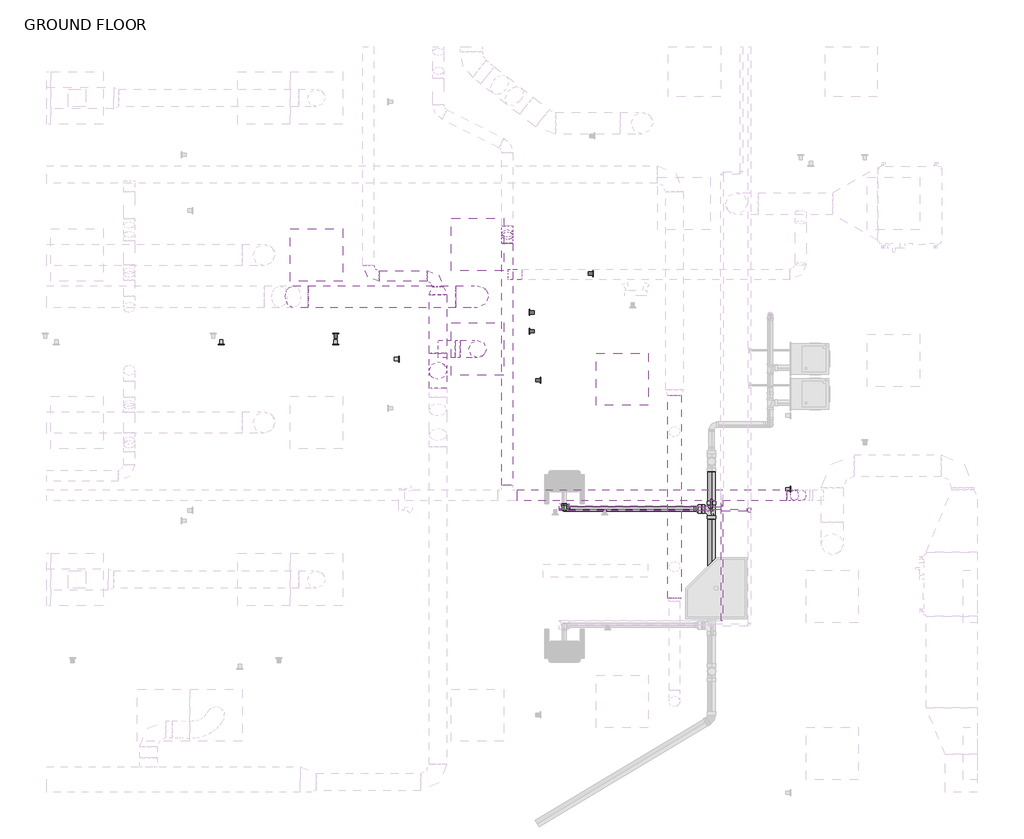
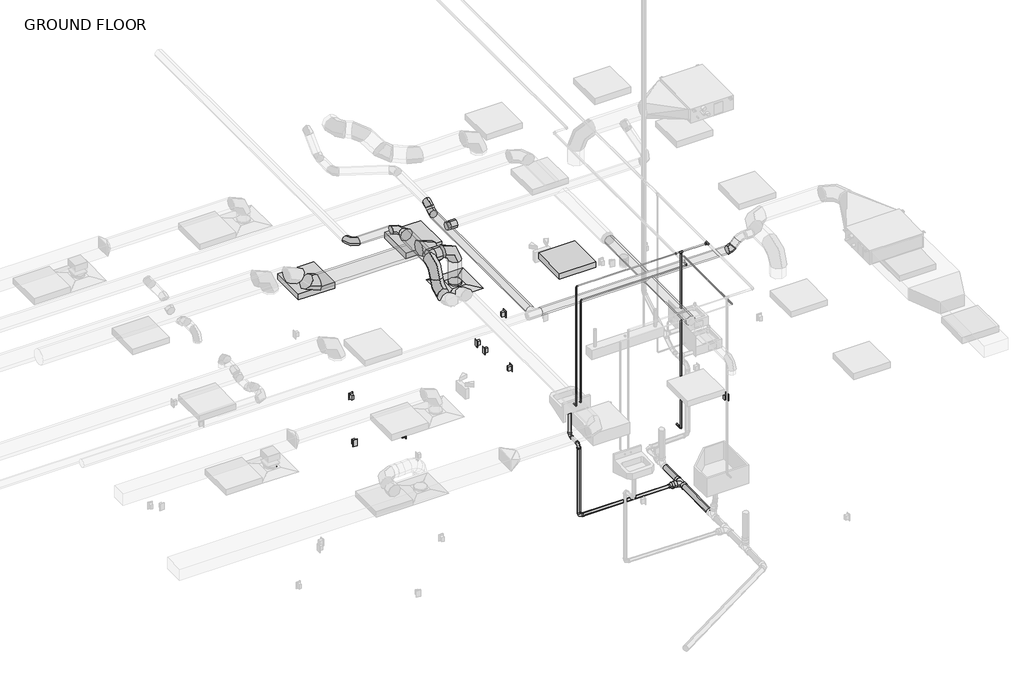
# One storey, part 8 of 22: 17 pipe segments, 15 pipe fittings, 13 duct fittings, 10 duct segments, 5 proxies, 3 light fixtures, 3 switching devices, 1 air terminal, 1 electric appliance.
"""IFC4 building model written with IfcOpenShell, lengths in millimetres."""

from ifc_helpers import new_model, si_unit, point, frame, frame_2d, origin, place, context, project, spatial, circle_curve, trimmed, segment, composite_curve, outline, extrude, transform, mapped, element, save
from components import air_terminal_e9020785, duplex_receptacle_countertop_10251bba, round_elbow_1_d_a253342a, round_elbow_1_d_6fec3262, round_elbow_1_d_c80420c1, round_elbow_1_d_ea3dccb8, round_elbow_1_d_d98422f0, round_elbow_1_d_d4250430, round_takeoff_standard_fe6830fc, round_takeoff_standard_aff246af, round_transition_angle_45_degree_d7d10bec, telephone_outlet_data_plain_18c24199, troffer_corner_insert_2x2_3lamp_e67c7f8f, bend_pvc_sch_40_dwv_standard_56513ac6, bend_pvc_sch_40_dwv_standard_efe5b847, elbow_generic_standard_738589b0, elbow_generic_standard_a088f956, reducer_pvc_sch_40_dwv_standard_bed7e4d3, tee_generic_standard_5078887e, tee_generic_standard_d345b28c, tee_sanitary_pvc_sch_40_dwv_standard_2808dae9, transition_generic_standard_44e35838, transition_generic_standard_1e832544

model = new_model("IFC4")

# Units and contexts
model_context = context("Model", 3, world=origin())
ifc_project = project(units=[si_unit("LENGTHUNIT", "METRE", prefix="MILLI")], contexts=[model_context])

# Site, building, storey
site = spatial("IfcSite", under=ifc_project)
building = spatial("IfcBuilding", under=site)
storey = spatial("IfcBuildingStorey", under=building, Name="GROUND FLOOR", Elevation=30480.0)

# Air terminal
placement = place(None, origin())
air_terminal_shape = air_terminal_e9020785(model_context)
element("IfcAirTerminal", 1, ObjectType="Supply Diffuser - Rectangular Face Round Neck - Hosted : 24\"x24\" Face 8\" Neck - Hosted", at=placement, inside=storey, context=model_context, shape_type="MappedRepresentation", body=[
    mapped(air_terminal_shape, transform((10211.7545393, -1542.0554995, 33223.2), x_axis=(0.0, -1.0, 0.0), y_axis=(-1.0, 0.0, 0.0), z_axis=(0.0, 0.0, -1.0))),
])

# Proxies
duplex_receptacle_countertop_shape = duplex_receptacle_countertop_10251bba(model_context)
element("IfcBuildingElementProxy", 2, Name="Duplex Receptacle : Countertop", ObjectType="Duplex Receptacle : Countertop", at=placement, inside=storey, context=model_context, shape_type="MappedRepresentation", body=[
    mapped(duplex_receptacle_countertop_shape, transform((8561.7474571, -1361.0804995, 31699.2), x_axis=(1.0, 0.0, 0.0), y_axis=(0.0, 0.0, -1.0), z_axis=(0.0, 1.0, 0.0))),
])
element("IfcBuildingElementProxy", 3, Name="Duplex Receptacle : Countertop", ObjectType="Duplex Receptacle : Countertop", at=placement, inside=storey, context=model_context, shape_type="MappedRepresentation", body=[
    mapped(duplex_receptacle_countertop_shape, transform((8558.6360575, -1484.9054995, 30937.2), x_axis=(-1.0, 0.0, 0.0), y_axis=(0.0, 0.0, -1.0), z_axis=(0.0, -1.0, 0.0))),
])
element("IfcBuildingElementProxy", 4, Name="Duplex Receptacle : GFCI", ObjectType="Duplex Receptacle : GFCI", at=placement, inside=storey, context=model_context, shape_type="MappedRepresentation", body=[
    mapped(duplex_receptacle_countertop_shape, transform((10945.1795393, -1904.4991631, 31699.2), x_axis=(0.0, 1.0, 0.0), y_axis=(0.0, 0.0, 1.0), z_axis=(1.0, 0.0, 0.0))),
])
element("IfcBuildingElementProxy", 5, Name="Duplex Receptacle : Standard", ObjectType="Duplex Receptacle : Standard", at=placement, inside=storey, context=model_context, shape_type="MappedRepresentation", body=[
    mapped(duplex_receptacle_countertop_shape, transform((9297.3545393, -1658.5626349, 30937.2), x_axis=(0.0, 1.0, 0.0), y_axis=(0.0, 0.0, 1.0), z_axis=(1.0, 0.0, 0.0))),
])
element("IfcBuildingElementProxy", 6, Name="Duplex Receptacle : Standard", ObjectType="Duplex Receptacle : Standard", at=placement, inside=storey, context=model_context, shape_type="MappedRepresentation", body=[
    mapped(duplex_receptacle_countertop_shape, transform((13856.6545393, -3176.2027773, 30937.2), x_axis=(0.0, 1.0, 0.0), y_axis=(0.0, 0.0, 1.0), z_axis=(1.0, 0.0, 0.0))),
])

# Duct fittings
round_elbow_1_d_shape = round_elbow_1_d_a253342a(model_context)
element("IfcDuctFitting", 7, ObjectType="Round Elbow : 1 D", at=placement, inside=storey, context=model_context, shape_type="MappedRepresentation", body=[
    mapped(round_elbow_1_d_shape, transform((10211.7545393, -1542.0554995, 33877.25), x_axis=(1.0, 0.0, 0.0), y_axis=(0.0, 0.0, -1.0), z_axis=(0.0, 1.0, 0.0))),
])
element("IfcDuctFitting", 8, ObjectType="Round Elbow : 1 D", at=placement, inside=storey, context=model_context, shape_type="MappedRepresentation", body=[
    mapped(round_elbow_1_d_shape, transform((9751.3795393, -1793.3165405, 33877.25), x_axis=(0.0, -1.0, 0.0), y_axis=(0.0, 0.0, -1.0), z_axis=(1.0, 0.0, 0.0))),
])
element("IfcDuctFitting", 9, ObjectType="Round Elbow : 1 D", at=placement, inside=storey, context=model_context, shape_type="MappedRepresentation", body=[
    mapped(round_elbow_1_d_shape, transform((9751.3795393, -1793.3165405, 33470.85), x_axis=(0.0, 0.0, -1.0), y_axis=(0.0, -1.0, 0.0), z_axis=(-1.0, 0.0, 0.0))),
])
round_elbow_1_d_2_shape = round_elbow_1_d_6fec3262(model_context)
element("IfcDuctFitting", 10, ObjectType="Round Elbow : 1 D", at=placement, inside=storey, context=model_context, shape_type="MappedRepresentation", body=[
    mapped(round_elbow_1_d_2_shape, transform((10211.7545393, -932.4554995, 33578.8), x_axis=(0.0, 0.0, 1.0), y_axis=(-1.0, 0.0, 0.0), z_axis=(0.0, -1.0, 0.0))),
])
round_elbow_1_d_3_shape = round_elbow_1_d_c80420c1(model_context)
element("IfcDuctFitting", 11, ObjectType="Round Elbow : 1 D", at=placement, inside=storey, context=model_context, shape_type="MappedRepresentation", body=[
    mapped(round_elbow_1_d_3_shape, transform((9751.3795393, -691.6850038, 33877.25), x_axis=(0.0, 1.0, 0.0), y_axis=(-1.0, 0.0, 0.0), z_axis=(0.0, 0.0, 1.0))),
])
element("IfcDuctFitting", 12, ObjectType="Round Elbow : 1 D", at=placement, inside=storey, context=model_context, shape_type="MappedRepresentation", body=[
    mapped(round_elbow_1_d_3_shape, transform((8938.5795393, -691.6850038, 33877.25), x_axis=(0.0, -1.0, 0.0), y_axis=(1.0, 0.0, 0.0), z_axis=(0.0, 0.0, 1.0))),
])
round_elbow_1_d_4_shape = round_elbow_1_d_ea3dccb8(model_context)
element("IfcDuctFitting", 13, ObjectType="Round Elbow : 1 D", at=placement, inside=storey, context=model_context, shape_type="MappedRepresentation", body=[
    mapped(round_elbow_1_d_4_shape, transform((8136.5019534, -932.4554995, 33578.8), x_axis=(0.7071067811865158, 0.0, -0.7071067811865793), y_axis=(0.7071067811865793, 0.0, 0.7071067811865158), z_axis=(0.0, -1.0, 0.0))),
])
round_elbow_1_d_5_shape = round_elbow_1_d_d98422f0(model_context)
element("IfcDuctFitting", 14, ObjectType="Round Elbow : 1 D", at=placement, inside=storey, context=model_context, shape_type="MappedRepresentation", body=[
    mapped(round_elbow_1_d_5_shape, transform((13868.7409865, -3245.6216457, 33602.9101563), x_axis=(-0.7071065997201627, 0.0, -0.707106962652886), y_axis=(-0.707106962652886, 0.0, 0.7071065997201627), z_axis=(0.0, 1.0, 0.0))),
])
round_elbow_1_d_6_shape = round_elbow_1_d_d4250430(model_context)
element("IfcDuctFitting", 15, ObjectType="Round Elbow : 1 D", at=placement, inside=storey, context=model_context, shape_type="MappedRepresentation", body=[
    mapped(round_elbow_1_d_6_shape, transform((10560.5577502, -156.9708741, 33705.8), x_axis=(0.0, -1.0, 0.0), y_axis=(0.0, 0.0, -1.0), z_axis=(1.0, 0.0, 0.0))),
])
element("IfcDuctFitting", 16, ObjectType="Round Elbow : 1 D", at=placement, inside=storey, context=model_context, shape_type="MappedRepresentation", body=[
    mapped(round_elbow_1_d_6_shape, transform((10560.5577502, -259.8606861, 33602.9101563), x_axis=(0.0, -0.7071066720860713, -0.7071068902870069), y_axis=(0.0, -0.7071068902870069, 0.7071066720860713), z_axis=(-1.0, 0.0, 0.0))),
])
round_takeoff_standard_shape = round_takeoff_standard_fe6830fc(model_context)
element("IfcDuctFitting", 17, ObjectType="Round Takeoff : Standard", at=placement, inside=storey, context=model_context, shape_type="MappedRepresentation", body=[
    mapped(round_takeoff_standard_shape, transform((10624.0577502, -673.4644888, 33602.9101562), x_axis=(1.0, 0.0, 0.0), y_axis=(0.0, 1.0, 0.0), z_axis=(0.0, 0.0, 1.0))),
])
round_takeoff_standard_2_shape = round_takeoff_standard_aff246af(model_context)
element("IfcDuctFitting", 18, ObjectType="Round Takeoff : Standard", at=placement, inside=storey, context=model_context, shape_type="MappedRepresentation", body=[
    mapped(round_takeoff_standard_2_shape, transform((9852.9795393, -1542.0554995, 33877.25), x_axis=(1.0, 0.0, 0.0), y_axis=(0.0, -1.0, 0.0), z_axis=(0.0, 0.0, -1.0))),
])
round_transition_angle_45_degree_shape = round_transition_angle_45_degree_d7d10bec(model_context)
element("IfcDuctFitting", 19, ObjectType="Round Transition - Angle : 45 Degree", at=placement, inside=storey, context=model_context, shape_type="MappedRepresentation", body=[
    mapped(round_transition_angle_45_degree_shape, transform((9751.3795393, -910.6665405, 33877.25), x_axis=(0.0, 1.0, 0.0), y_axis=(-1.0, 0.0, 0.0), z_axis=(0.0, 0.0, 1.0))),
])

# Duct segments
element("IfcDuctSegment", 20, ObjectType="Taps / Short Radius", at=placement, inside=storey, context=model_context, shape_type="SweptSolid", body=[
    extrude(outline(composite_curve([segment(trimmed(circle_curve(frame_2d((-691.6850038, 33877.25)), 63.5), [point((-628.1850038, 33877.25))], [point((-691.6850038, 33813.75))], False, "CARTESIAN"), True, "CONTINUOUS"), segment(trimmed(circle_curve(frame_2d((-691.6850038, 33877.25)), 63.5), [point((-691.6850038, 33813.75))], [point((-755.1850038, 33877.25))], False, "CARTESIAN"), True, "CONTINUOUS"), segment(trimmed(circle_curve(frame_2d((-691.6850038, 33877.25)), 63.5), [point((-755.1850038, 33877.25))], [point((-691.6850038, 33940.75))], False, "CARTESIAN"), True, "CONTINUOUS"), segment(trimmed(circle_curve(frame_2d((-691.6850038, 33877.25)), 63.5), [point((-691.6850038, 33940.75))], [point((-628.1850038, 33877.25))], False, "CARTESIAN"), True, "CONTINUOUS")], self_intersect=False)), frame((9065.5795393, 0.0, 0.0), z_axis=(1.0, 0.0, 0.0), x_axis=(0.0, 1.0, 0.0)), (0.0, 0.0, 1.0), 558.8),
])
element("IfcDuctSegment", 21, ObjectType="Taps / Short Radius", at=placement, inside=storey, context=model_context, shape_type="SweptSolid", body=[
    extrude(outline(composite_curve([segment(trimmed(circle_curve(frame_2d((10211.7545393, -1542.0554995)), 101.6), [point((10211.7545393, -1643.6554995))], [point((10110.1545393, -1542.0554995))], False, "CARTESIAN"), True, "CONTINUOUS"), segment(trimmed(circle_curve(frame_2d((10211.7545393, -1542.0554995)), 101.6), [point((10110.1545393, -1542.0554995))], [point((10211.7545393, -1440.4554995))], False, "CARTESIAN"), True, "CONTINUOUS"), segment(trimmed(circle_curve(frame_2d((10211.7545393, -1542.0554995)), 101.6), [point((10211.7545393, -1440.4554995))], [point((10313.3545393, -1542.0554995))], False, "CARTESIAN"), True, "CONTINUOUS"), segment(trimmed(circle_curve(frame_2d((10211.7545393, -1542.0554995)), 101.6), [point((10313.3545393, -1542.0554995))], [point((10211.7545393, -1643.6554995))], False, "CARTESIAN"), True, "CONTINUOUS")], self_intersect=False)), frame((0.0, 0.0, 33277.175), z_axis=(0.0, 0.0, 1.0), x_axis=(1.0, 0.0, 0.0)), (0.0, 0.0, 1.0), 396.875),
])
element("IfcDuctSegment", 22, ObjectType="Taps / Short Radius", at=placement, inside=storey, context=model_context, shape_type="SweptSolid", body=[
    extrude(outline(composite_curve([segment(trimmed(circle_curve(frame_2d((-1542.0554995, 33877.25)), 101.6), [point((-1643.6554995, 33877.25))], [point((-1542.0554995, 33978.85))], False, "CARTESIAN"), True, "CONTINUOUS"), segment(trimmed(circle_curve(frame_2d((-1542.0554995, 33877.25)), 101.6), [point((-1542.0554995, 33978.85))], [point((-1440.4554995, 33877.25))], False, "CARTESIAN"), True, "CONTINUOUS"), segment(trimmed(circle_curve(frame_2d((-1542.0554995, 33877.25)), 101.6), [point((-1440.4554995, 33877.25))], [point((-1542.0554995, 33775.65))], False, "CARTESIAN"), True, "CONTINUOUS"), segment(trimmed(circle_curve(frame_2d((-1542.0554995, 33877.25)), 101.6), [point((-1542.0554995, 33775.65))], [point((-1643.6554995, 33877.25))], False, "CARTESIAN"), True, "CONTINUOUS")], self_intersect=False)), frame((9954.5795393, 0.0, 0.0), z_axis=(1.0, 0.0, 0.0), x_axis=(0.0, 1.0, 0.0)), (0.0, 0.0, 1.0), 53.975),
])
element("IfcDuctSegment", 23, ObjectType="Taps / Short Radius", at=placement, inside=storey, context=model_context, shape_type="SweptSolid", body=[
    extrude(outline(composite_curve([segment(trimmed(circle_curve(frame_2d((-932.4554995, 33578.8)), 127.0), [point((-1059.4554995, 33578.8))], [point((-932.4554995, 33705.8))], False, "CARTESIAN"), True, "CONTINUOUS"), segment(trimmed(circle_curve(frame_2d((-932.4554995, 33578.8)), 127.0), [point((-932.4554995, 33705.8))], [point((-805.4554995, 33578.8))], False, "CARTESIAN"), True, "CONTINUOUS"), segment(trimmed(circle_curve(frame_2d((-932.4554995, 33578.8)), 127.0), [point((-805.4554995, 33578.8))], [point((-932.4554995, 33451.8))], False, "CARTESIAN"), True, "CONTINUOUS"), segment(trimmed(circle_curve(frame_2d((-932.4554995, 33578.8)), 127.0), [point((-932.4554995, 33451.8))], [point((-1059.4554995, 33578.8))], False, "CARTESIAN"), True, "CONTINUOUS")], self_intersect=False)), frame((8241.7121983, 0.0, 0.0), z_axis=(1.0, 0.0, 0.0), x_axis=(0.0, 1.0, 0.0)), (0.0, 0.0, 1.0), 1716.042341),
])
element("IfcDuctSegment", 24, ObjectType="Taps / Short Radius", at=placement, inside=storey, context=model_context, shape_type="SweptSolid", body=[
    extrude(outline(composite_curve([segment(trimmed(circle_curve(frame_2d((-3245.6216457, 33602.867541)), 63.5), [point((-3182.1216457, 33602.867541))], [point((-3245.6216457, 33539.367541))], False, "CARTESIAN"), True, "CONTINUOUS"), segment(trimmed(circle_curve(frame_2d((-3245.6216457, 33602.867541)), 63.5), [point((-3245.6216457, 33539.367541))], [point((-3309.1216457, 33602.867541))], False, "CARTESIAN"), True, "CONTINUOUS"), segment(trimmed(circle_curve(frame_2d((-3245.6216457, 33602.867541)), 63.5), [point((-3309.1216457, 33602.867541))], [point((-3245.6216457, 33666.367541))], False, "CARTESIAN"), True, "CONTINUOUS"), segment(trimmed(circle_curve(frame_2d((-3245.6216457, 33602.867541)), 63.5), [point((-3245.6216457, 33666.367541))], [point((-3182.1216457, 33602.867541))], False, "CARTESIAN"), True, "CONTINUOUS")], self_intersect=False)), frame((10674.8577502, 0.0, 0.0), z_axis=(1.0, 0.0, 0.0), x_axis=(0.0, 1.0, 0.0)), (0.0, 0.0, 1.0), 3141.2354795),
])
element("IfcDuctSegment", 25, ObjectType="Taps / Short Radius", at=placement, inside=storey, context=model_context, shape_type="SweptSolid", body=[
    extrude(outline(composite_curve([segment(trimmed(circle_curve(frame_2d((0.0, -63.5)), 63.5), [point((0.0, 0.0))], [point((63.5, -63.5))], False, "CARTESIAN"), True, "CONTINUOUS"), segment(trimmed(circle_curve(frame_2d((0.0, -63.5)), 63.5), [point((63.5, -63.5))], [point((0.0, -127.0))], False, "CARTESIAN"), True, "CONTINUOUS"), segment(trimmed(circle_curve(frame_2d((0.0, -63.5)), 63.5), [point((0.0, -127.0))], [point((-63.5, -63.5))], False, "CARTESIAN"), True, "CONTINUOUS"), segment(trimmed(circle_curve(frame_2d((0.0, -63.5)), 63.5), [point((-63.5, -63.5))], [point((0.0, 0.0))], False, "CARTESIAN"), True, "CONTINUOUS")], self_intersect=False)), frame((13905.9384292, -3182.1216457, 33640.1076181), z_axis=(0.7071065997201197, 0.0, 0.7071069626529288), x_axis=(0.7071069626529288, 0.0, -0.7071065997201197)), (0.0, 0.0, 1.0), 122.2427082),
])
element("IfcDuctSegment", 26, ObjectType="Taps / Short Radius", at=placement, inside=storey, context=model_context, shape_type="SweptSolid", body=[
    extrude(outline(composite_curve([segment(trimmed(circle_curve(frame_2d((33528.0, 12507.2795393)), 76.2), [point((33528.0, 12583.4795393))], [point((33604.2, 12507.2795393))], False, "CARTESIAN"), True, "CONTINUOUS"), segment(trimmed(circle_curve(frame_2d((33528.0, 12507.2795393)), 76.2), [point((33604.2, 12507.2795393))], [point((33528.0, 12431.0795393))], False, "CARTESIAN"), True, "CONTINUOUS"), segment(trimmed(circle_curve(frame_2d((33528.0, 12507.2795393)), 76.2), [point((33528.0, 12431.0795393))], [point((33451.8, 12507.2795393))], False, "CARTESIAN"), True, "CONTINUOUS"), segment(trimmed(circle_curve(frame_2d((33528.0, 12507.2795393)), 76.2), [point((33451.8, 12507.2795393))], [point((33528.0, 12583.4795393))], False, "CARTESIAN"), True, "CONTINUOUS")], self_intersect=False)), frame((0.0, -4448.2699872, 0.0), z_axis=(0.0, 1.0, 0.0), x_axis=(0.0, 0.0, 1.0)), (0.0, 0.0, 1.0), 2369.8966003),
])
element("IfcDuctSegment", 27, ObjectType="Taps / Short Radius", at=placement, inside=storey, context=model_context, shape_type="SweptSolid", body=[
    extrude(outline(composite_curve([segment(trimmed(circle_curve(frame_2d((33602.867541, 10560.5577502)), 63.5), [point((33602.867541, 10497.0577502))], [point((33539.367541, 10560.5577502))], False, "CARTESIAN"), True, "CONTINUOUS"), segment(trimmed(circle_curve(frame_2d((33602.867541, 10560.5577502)), 63.5), [point((33539.367541, 10560.5577502))], [point((33602.867541, 10624.0577502))], False, "CARTESIAN"), True, "CONTINUOUS"), segment(trimmed(circle_curve(frame_2d((33602.867541, 10560.5577502)), 63.5), [point((33602.867541, 10624.0577502))], [point((33666.367541, 10560.5577502))], False, "CARTESIAN"), True, "CONTINUOUS"), segment(trimmed(circle_curve(frame_2d((33602.867541, 10560.5577502)), 63.5), [point((33666.367541, 10560.5577502))], [point((33602.867541, 10497.0577502))], False, "CARTESIAN"), True, "CONTINUOUS")], self_intersect=False)), frame((0.0, -3131.3216457, 0.0), z_axis=(0.0, 1.0, 0.0), x_axis=(0.0, 0.0, 1.0)), (0.0, 0.0, 1.0), 2818.8132105),
])
element("IfcDuctSegment", 28, ObjectType="Taps / Short Radius", at=placement, inside=storey, context=model_context, shape_type="SweptSolid", body=[
    extrude(outline(composite_curve([segment(trimmed(circle_curve(frame_2d((0.0, -63.5)), 63.5), [point((-63.5, -63.5))], [point((0.0, 0.0))], False, "CARTESIAN"), True, "CONTINUOUS"), segment(trimmed(circle_curve(frame_2d((0.0, -63.5)), 63.5), [point((0.0, 0.0))], [point((63.5, -63.5))], False, "CARTESIAN"), True, "CONTINUOUS"), segment(trimmed(circle_curve(frame_2d((0.0, -63.5)), 63.5), [point((63.5, -63.5))], [point((0.0, -127.0))], False, "CARTESIAN"), True, "CONTINUOUS"), segment(trimmed(circle_curve(frame_2d((0.0, -63.5)), 63.5), [point((0.0, -127.0))], [point((-63.5, -63.5))], False, "CARTESIAN"), True, "CONTINUOUS")], self_intersect=False)), frame((10560.5577502, -177.7619574, 33595.2063352), z_axis=(0.0, 0.7071066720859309, 0.7071068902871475), x_axis=(1.0, 0.0, 0.0)), (0.0, 0.0, 1.0), 40.2979222),
])
element("IfcDuctSegment", 29, ObjectType="Taps / Short Radius", at=placement, inside=storey, context=model_context, shape_type="SweptSolid", body=[
    extrude(outline(composite_curve([segment(trimmed(circle_curve(frame_2d((33877.25, 9751.3795393)), 101.6), [point((33877.25, 9649.7795393))], [point((33775.65, 9751.3795393))], False, "CARTESIAN"), True, "CONTINUOUS"), segment(trimmed(circle_curve(frame_2d((33877.25, 9751.3795393)), 101.6), [point((33775.65, 9751.3795393))], [point((33877.25, 9852.9795393))], False, "CARTESIAN"), True, "CONTINUOUS"), segment(trimmed(circle_curve(frame_2d((33877.25, 9751.3795393)), 101.6), [point((33877.25, 9852.9795393))], [point((33978.85, 9751.3795393))], False, "CARTESIAN"), True, "CONTINUOUS"), segment(trimmed(circle_curve(frame_2d((33877.25, 9751.3795393)), 101.6), [point((33978.85, 9751.3795393))], [point((33877.25, 9649.7795393))], False, "CARTESIAN"), True, "CONTINUOUS")], self_intersect=False)), frame((0.0, -1590.1165405, 0.0), z_axis=(0.0, 1.0, 0.0), x_axis=(0.0, 0.0, 1.0)), (0.0, 0.0, 1.0), 679.45),
])

# Electric appliance
telephone_outlet_data_plain_shape = telephone_outlet_data_plain_18c24199(model_context)
element("IfcElectricAppliance", 30, ObjectType="Telephone Outlet - Data : Plain", at=placement, inside=storey, context=model_context, shape_type="MappedRepresentation", body=[
    mapped(telephone_outlet_data_plain_shape, transform((8105.4600467, -1484.9054995, 30079.95), x_axis=(1.0, 0.0, 0.0), y_axis=(0.0, 0.0, 1.0), z_axis=(0.0, -1.0, 0.0))),
])

# Light fixtures
troffer_corner_insert_2x2_3lamp_shape = troffer_corner_insert_2x2_3lamp_e67c7f8f(model_context)
element("IfcLightFixture", 31, ObjectType="Troffer Corner Insert : 2x2 3Lamp", at=placement, inside=storey, context=model_context, shape_type="MappedRepresentation", body=[
    mapped(troffer_corner_insert_2x2_3lamp_shape, transform((8335.3295393, -446.6804995, 30784.8), x_axis=(1.0, 0.0, 0.0), y_axis=(0.0, 1.0, 0.0), z_axis=(0.0, 0.0, 1.0))),
])
element("IfcLightFixture", 32, ObjectType="Troffer Corner Insert : 2x2 3Lamp", at=placement, inside=storey, context=model_context, shape_type="MappedRepresentation", body=[
    mapped(troffer_corner_insert_2x2_3lamp_shape, transform((10211.7545393, -322.8554995, 30784.8), x_axis=(1.0, 0.0, 0.0), y_axis=(0.0, 1.0, 0.0), z_axis=(0.0, 0.0, 1.0))),
])
element("IfcLightFixture", 33, ObjectType="Troffer Corner Insert : 2x2 3Lamp", at=placement, inside=storey, context=model_context, shape_type="MappedRepresentation", body=[
    mapped(troffer_corner_insert_2x2_3lamp_shape, transform((11897.6795393, -1894.4804995, 30784.8), x_axis=(1.0, 0.0, 0.0), y_axis=(0.0, 1.0, 0.0), z_axis=(0.0, 0.0, 1.0))),
])

# Pipe fittings
bend_pvc_sch_40_dwv_standard_shape = bend_pvc_sch_40_dwv_standard_56513ac6(model_context)
element("IfcPipeFitting", 34, ObjectType="Bend - PVC - Sch 40 - DWV : Standard", at=placement, inside=storey, context=model_context, shape_type="MappedRepresentation", body=[
    mapped(bend_pvc_sch_40_dwv_standard_shape, transform((11224.5795393, -3139.0804995, 31140.4), x_axis=(0.0, 0.0, -1.0), y_axis=(0.0, -1.0, 0.0), z_axis=(-1.0, 0.0, 0.0))),
])
element("IfcPipeFitting", 35, ObjectType="Bend - PVC - Sch 40 - DWV : Standard", at=placement, inside=storey, context=model_context, shape_type="MappedRepresentation", body=[
    mapped(bend_pvc_sch_40_dwv_standard_shape, transform((11224.5795393, -3405.7804995, 31137.621875), x_axis=(0.0, -0.9999457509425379, -0.010416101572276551), y_axis=(0.0, 0.010416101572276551, -0.9999457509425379), z_axis=(1.0, 0.0, 0.0))),
])
bend_pvc_sch_40_dwv_standard_2_shape = bend_pvc_sch_40_dwv_standard_efe5b847(model_context)
element("IfcPipeFitting", 36, ObjectType="Bend - PVC - Sch 40 - DWV : Standard", at=placement, inside=storey, context=model_context, shape_type="MappedRepresentation", body=[
    mapped(bend_pvc_sch_40_dwv_standard_2_shape, transform((11224.5795393, -3405.7804995, 29869.9466323), x_axis=(0.0, 0.0, -1.0), y_axis=(1.0, 0.0, 0.0), z_axis=(0.0, -1.0, 0.0))),
])
elbow_generic_standard_shape = elbow_generic_standard_738589b0(model_context)
element("IfcPipeFitting", 37, ObjectType="Elbow - Generic : Standard", at=placement, inside=storey, context=model_context, shape_type="MappedRepresentation", body=[
    mapped(elbow_generic_standard_shape, transform((12939.0795393, -3418.4804995, 30835.6), x_axis=(0.0, 0.0, -1.0), y_axis=(0.0, 1.0, 0.0), z_axis=(1.0, 0.0, 0.0))),
])
elbow_generic_standard_2_shape = elbow_generic_standard_a088f956(model_context)
element("IfcPipeFitting", 38, ObjectType="Elbow - Generic : Standard", at=placement, inside=storey, context=model_context, shape_type="MappedRepresentation", body=[
    mapped(elbow_generic_standard_2_shape, transform((11173.7795393, -3418.4804995, 31851.6), x_axis=(0.0, -1.0, 0.0), y_axis=(0.0, 0.0, 1.0), z_axis=(-1.0, 0.0, 0.0))),
])
element("IfcPipeFitting", 39, ObjectType="Elbow - Generic : Standard", at=placement, inside=storey, context=model_context, shape_type="MappedRepresentation", body=[
    mapped(elbow_generic_standard_2_shape, transform((11173.7795393, -3418.4804995, 33978.2831664), x_axis=(0.0, 0.0, 1.0), y_axis=(1.0, 0.0, 0.0), z_axis=(0.0, 1.0, 0.0))),
])
element("IfcPipeFitting", 40, ObjectType="Elbow - Generic : Standard", at=placement, inside=storey, context=model_context, shape_type="MappedRepresentation", body=[
    mapped(elbow_generic_standard_2_shape, transform((13060.9512041, -3376.3689834, 33680.4), x_axis=(1.0, 0.0, 0.0), y_axis=(0.0, 1.0, 0.0), z_axis=(0.0, 0.0, 1.0))),
])
element("IfcPipeFitting", 41, ObjectType="Elbow - Generic : Standard", at=placement, inside=storey, context=model_context, shape_type="MappedRepresentation", body=[
    mapped(elbow_generic_standard_2_shape, transform((11275.3795393, -3376.3689834, 33680.4), x_axis=(-1.0, 0.0, 0.0), y_axis=(0.0, 0.0, -1.0), z_axis=(0.0, -1.0, 0.0))),
])
element("IfcPipeFitting", 42, ObjectType="Elbow - Generic : Standard", at=placement, inside=storey, context=model_context, shape_type="MappedRepresentation", body=[
    mapped(elbow_generic_standard_2_shape, transform((11275.3795393, -3376.3689834, 31851.6), x_axis=(0.0, 0.0, -1.0), y_axis=(0.0, 1.0, 0.0), z_axis=(1.0, 0.0, 0.0))),
])
reducer_pvc_sch_40_dwv_standard_shape = reducer_pvc_sch_40_dwv_standard_bed7e4d3(model_context)
element("IfcPipeFitting", 43, ObjectType="Reducer - PVC - Sch 40 - DWV : Standard", at=placement, inside=storey, context=model_context, shape_type="MappedRepresentation", body=[
    mapped(reducer_pvc_sch_40_dwv_standard_shape, transform((12823.1798933, -3405.7804995, 29865.00368), x_axis=(-0.9999952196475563, 0.0, 0.0030920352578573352), y_axis=(-3.2206799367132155e-05, -0.9999457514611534, -0.010416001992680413), z_axis=(0.003091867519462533, -0.010416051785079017, 0.9999409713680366))),
])
tee_generic_standard_shape = tee_generic_standard_5078887e(model_context)
element("IfcPipeFitting", 44, ObjectType="Tee - Generic : Standard", at=placement, inside=storey, context=model_context, shape_type="MappedRepresentation", body=[
    mapped(tee_generic_standard_shape, transform((12939.0795393, -3418.4804995, 33978.2831664), x_axis=(-1.0, 0.0, 0.0), y_axis=(0.0, 0.0, 1.0), z_axis=(0.0, 1.0, 0.0))),
])
tee_generic_standard_2_shape = tee_generic_standard_d345b28c(model_context)
element("IfcPipeFitting", 45, ObjectType="Tee - Generic : Standard", at=placement, inside=storey, context=model_context, shape_type="MappedRepresentation", body=[
    mapped(tee_generic_standard_2_shape, transform((13383.5569177, -3418.4804995, 33978.2831664), x_axis=(0.0, -1.0, 0.0), y_axis=(1.0, 0.0, 0.0), z_axis=(0.0, 0.0, 1.0))),
])
tee_sanitary_pvc_sch_40_dwv_standard_shape = tee_sanitary_pvc_sch_40_dwv_standard_2808dae9(model_context)
element("IfcPipeFitting", 46, ObjectType="Tee Sanitary - PVC - Sch 40 - DWV : Standard", at=placement, inside=storey, context=model_context, shape_type="MappedRepresentation", body=[
    mapped(tee_sanitary_pvc_sch_40_dwv_standard_shape, transform((12939.0795393, -3405.7804995, 29864.6453125), x_axis=(0.0, 0.9999457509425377, 0.010416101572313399), y_axis=(0.9999952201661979, 3.2205206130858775e-05, -0.0030916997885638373), z_axis=(-0.0030918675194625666, 0.010416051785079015, -0.9999409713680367))),
])
transition_generic_standard_shape = transition_generic_standard_44e35838(model_context)
element("IfcPipeFitting", 47, ObjectType="Transition - Generic : Standard", at=placement, inside=storey, context=model_context, shape_type="MappedRepresentation", body=[
    mapped(transition_generic_standard_shape, transform((12855.7357893, -3418.4804995, 33978.2831664), x_axis=(-1.0, 0.0, 0.0), y_axis=(0.0, -1.0, 0.0), z_axis=(0.0, 0.0, 1.0))),
])
transition_generic_standard_2_shape = transition_generic_standard_1e832544(model_context)
element("IfcPipeFitting", 48, ObjectType="Transition - Generic : Standard", at=placement, inside=storey, context=model_context, shape_type="MappedRepresentation", body=[
    mapped(transition_generic_standard_2_shape, transform((13356.5694177, -3418.4804995, 33978.2831664), x_axis=(-1.0, 0.0, 0.0), y_axis=(0.0, -1.0, 0.0), z_axis=(0.0, 0.0, 1.0))),
])

# Pipe segments
element("IfcPipeSegment", 49, ObjectType="Copper Tubing", at=placement, inside=storey, context=model_context, shape_type="SweptSolid", body=[
    extrude(outline(composite_curve([segment(trimmed(circle_curve(frame_2d((31851.6, 11173.7795393)), 7.9375), [point((31851.6, 11165.8420393))], [point((31843.6625, 11173.7795393))], False, "CARTESIAN"), True, "CONTINUOUS"), segment(trimmed(circle_curve(frame_2d((31851.6, 11173.7795393)), 7.9375), [point((31843.6625, 11173.7795393))], [point((31851.6, 11181.7170393))], False, "CARTESIAN"), True, "CONTINUOUS"), segment(trimmed(circle_curve(frame_2d((31851.6, 11173.7795393)), 7.9375), [point((31851.6, 11181.7170393))], [point((31859.5375, 11173.7795393))], False, "CARTESIAN"), True, "CONTINUOUS"), segment(trimmed(circle_curve(frame_2d((31851.6, 11173.7795393)), 7.9375), [point((31859.5375, 11173.7795393))], [point((31851.6, 11165.8420393))], False, "CARTESIAN"), True, "CONTINUOUS")], self_intersect=False)), frame((0.0, -3404.1929995, 0.0), z_axis=(0.0, 1.0, 0.0), x_axis=(0.0, 0.0, 1.0)), (0.0, 0.0, 1.0), 61.9125),
])
element("IfcPipeSegment", 50, ObjectType="Copper Tubing", at=placement, inside=storey, context=model_context, shape_type="SweptSolid", body=[
    extrude(outline(composite_curve([segment(trimmed(circle_curve(frame_2d((-3418.4804995, 33978.2831664)), 7.9375), [point((-3426.4179995, 33978.2831664))], [point((-3418.4804995, 33986.2206664))], False, "CARTESIAN"), True, "CONTINUOUS"), segment(trimmed(circle_curve(frame_2d((-3418.4804995, 33978.2831664)), 7.9375), [point((-3418.4804995, 33986.2206664))], [point((-3410.5429995, 33978.2831664))], False, "CARTESIAN"), True, "CONTINUOUS"), segment(trimmed(circle_curve(frame_2d((-3418.4804995, 33978.2831664)), 7.9375), [point((-3410.5429995, 33978.2831664))], [point((-3418.4804995, 33970.3456664))], False, "CARTESIAN"), True, "CONTINUOUS"), segment(trimmed(circle_curve(frame_2d((-3418.4804995, 33978.2831664)), 7.9375), [point((-3418.4804995, 33970.3456664))], [point((-3426.4179995, 33978.2831664))], False, "CARTESIAN"), True, "CONTINUOUS")], self_intersect=False)), frame((11188.0670393, 0.0, 0.0), z_axis=(1.0, 0.0, 0.0), x_axis=(0.0, 1.0, 0.0)), (0.0, 0.0, 1.0), 1662.1125),
])
element("IfcPipeSegment", 51, ObjectType="Copper Tubing", at=placement, inside=storey, context=model_context, shape_type="SweptSolid", body=[
    extrude(outline(composite_curve([segment(trimmed(circle_curve(frame_2d((11173.7795393, -3418.4804995)), 7.9375), [point((11165.8420393, -3418.4804995))], [point((11173.7795393, -3410.5429995))], False, "CARTESIAN"), True, "CONTINUOUS"), segment(trimmed(circle_curve(frame_2d((11173.7795393, -3418.4804995)), 7.9375), [point((11173.7795393, -3410.5429995))], [point((11181.7170393, -3418.4804995))], False, "CARTESIAN"), True, "CONTINUOUS"), segment(trimmed(circle_curve(frame_2d((11173.7795393, -3418.4804995)), 7.9375), [point((11181.7170393, -3418.4804995))], [point((11173.7795393, -3426.4179995))], False, "CARTESIAN"), True, "CONTINUOUS"), segment(trimmed(circle_curve(frame_2d((11173.7795393, -3418.4804995)), 7.9375), [point((11173.7795393, -3426.4179995))], [point((11165.8420393, -3418.4804995))], False, "CARTESIAN"), True, "CONTINUOUS")], self_intersect=False)), frame((0.0, 0.0, 31865.8875), z_axis=(0.0, 0.0, 1.0), x_axis=(1.0, 0.0, 0.0)), (0.0, 0.0, 1.0), 2098.1081664),
])
element("IfcPipeSegment", 52, ObjectType="Copper Tubing", at=placement, inside=storey, context=model_context, shape_type="SweptSolid", body=[
    extrude(outline(composite_curve([segment(trimmed(circle_curve(frame_2d((-3418.4804995, 33978.2831664)), 11.1125), [point((-3407.3679995, 33978.2831664))], [point((-3418.4804995, 33967.1706664))], False, "CARTESIAN"), True, "CONTINUOUS"), segment(trimmed(circle_curve(frame_2d((-3418.4804995, 33978.2831664)), 11.1125), [point((-3418.4804995, 33967.1706664))], [point((-3429.5929995, 33978.2831664))], False, "CARTESIAN"), True, "CONTINUOUS"), segment(trimmed(circle_curve(frame_2d((-3418.4804995, 33978.2831664)), 11.1125), [point((-3429.5929995, 33978.2831664))], [point((-3418.4804995, 33989.3956664))], False, "CARTESIAN"), True, "CONTINUOUS"), segment(trimmed(circle_curve(frame_2d((-3418.4804995, 33978.2831664)), 11.1125), [point((-3418.4804995, 33989.3956664))], [point((-3407.3679995, 33978.2831664))], False, "CARTESIAN"), True, "CONTINUOUS")], self_intersect=False)), frame((12855.7357893, 0.0, 0.0), z_axis=(1.0, 0.0, 0.0), x_axis=(0.0, 1.0, 0.0)), (0.0, 0.0, 1.0), 59.53125),
])
element("IfcPipeSegment", 53, ObjectType="Copper Tubing", at=placement, inside=storey, context=model_context, shape_type="SweptSolid", body=[
    extrude(outline(composite_curve([segment(trimmed(circle_curve(frame_2d((30835.6, 12939.0795393)), 11.1125), [point((30835.6, 12950.1920393))], [point((30846.7125, 12939.0795393))], False, "CARTESIAN"), True, "CONTINUOUS"), segment(trimmed(circle_curve(frame_2d((30835.6, 12939.0795393)), 11.1125), [point((30846.7125, 12939.0795393))], [point((30835.6, 12927.9670393))], False, "CARTESIAN"), True, "CONTINUOUS"), segment(trimmed(circle_curve(frame_2d((30835.6, 12939.0795393)), 11.1125), [point((30835.6, 12927.9670393))], [point((30824.4875, 12939.0795393))], False, "CARTESIAN"), True, "CONTINUOUS"), segment(trimmed(circle_curve(frame_2d((30835.6, 12939.0795393)), 11.1125), [point((30824.4875, 12939.0795393))], [point((30835.6, 12950.1920393))], False, "CARTESIAN"), True, "CONTINUOUS")], self_intersect=False)), frame((0.0, -3401.0179995, 0.0), z_axis=(0.0, 1.0, 0.0), x_axis=(0.0, 0.0, 1.0)), (0.0, 0.0, 1.0), 109.5375),
])
element("IfcPipeSegment", 54, ObjectType="Copper Tubing", at=placement, inside=storey, context=model_context, shape_type="SweptSolid", body=[
    extrude(outline(composite_curve([segment(trimmed(circle_curve(frame_2d((12939.0795393, -3418.4804995)), 11.1125), [point((12950.1920393, -3418.4804995))], [point((12939.0795393, -3429.5929995))], False, "CARTESIAN"), True, "CONTINUOUS"), segment(trimmed(circle_curve(frame_2d((12939.0795393, -3418.4804995)), 11.1125), [point((12939.0795393, -3429.5929995))], [point((12927.9670393, -3418.4804995))], False, "CARTESIAN"), True, "CONTINUOUS"), segment(trimmed(circle_curve(frame_2d((12939.0795393, -3418.4804995)), 11.1125), [point((12927.9670393, -3418.4804995))], [point((12939.0795393, -3407.3679995))], False, "CARTESIAN"), True, "CONTINUOUS"), segment(trimmed(circle_curve(frame_2d((12939.0795393, -3418.4804995)), 11.1125), [point((12939.0795393, -3407.3679995))], [point((12950.1920393, -3418.4804995))], False, "CARTESIAN"), True, "CONTINUOUS")], self_intersect=False)), frame((0.0, 0.0, 30853.0625), z_axis=(0.0, 0.0, 1.0), x_axis=(1.0, 0.0, 0.0)), (0.0, 0.0, 1.0), 3101.4081664),
])
element("IfcPipeSegment", 55, ObjectType="Copper Tubing", at=placement, inside=storey, context=model_context, shape_type="SweptSolid", body=[
    extrude(outline(composite_curve([segment(trimmed(circle_curve(frame_2d((-3418.4804995, 33978.2831664)), 11.1125), [point((-3407.3679995, 33978.2831664))], [point((-3418.4804995, 33967.1706664))], False, "CARTESIAN"), True, "CONTINUOUS"), segment(trimmed(circle_curve(frame_2d((-3418.4804995, 33978.2831664)), 11.1125), [point((-3418.4804995, 33967.1706664))], [point((-3429.5929995, 33978.2831664))], False, "CARTESIAN"), True, "CONTINUOUS"), segment(trimmed(circle_curve(frame_2d((-3418.4804995, 33978.2831664)), 11.1125), [point((-3429.5929995, 33978.2831664))], [point((-3418.4804995, 33989.3956664))], False, "CARTESIAN"), True, "CONTINUOUS"), segment(trimmed(circle_curve(frame_2d((-3418.4804995, 33978.2831664)), 11.1125), [point((-3418.4804995, 33989.3956664))], [point((-3407.3679995, 33978.2831664))], False, "CARTESIAN"), True, "CONTINUOUS")], self_intersect=False)), frame((12962.8920393, 0.0, 0.0), z_axis=(1.0, 0.0, 0.0), x_axis=(0.0, 1.0, 0.0)), (0.0, 0.0, 1.0), 386.5336284),
])
element("IfcPipeSegment", 56, ObjectType="Copper Tubing", at=placement, inside=storey, context=model_context, shape_type="SweptSolid", body=[
    extrude(outline(composite_curve([segment(trimmed(circle_curve(frame_2d((33680.4, 13060.9512041)), 7.9375), [point((33680.4, 13053.0137041))], [point((33672.4625, 13060.9512041))], False, "CARTESIAN"), True, "CONTINUOUS"), segment(trimmed(circle_curve(frame_2d((33680.4, 13060.9512041)), 7.9375), [point((33672.4625, 13060.9512041))], [point((33680.4, 13068.8887041))], False, "CARTESIAN"), True, "CONTINUOUS"), segment(trimmed(circle_curve(frame_2d((33680.4, 13060.9512041)), 7.9375), [point((33680.4, 13068.8887041))], [point((33688.3375, 13060.9512041))], False, "CARTESIAN"), True, "CONTINUOUS"), segment(trimmed(circle_curve(frame_2d((33680.4, 13060.9512041)), 7.9375), [point((33688.3375, 13060.9512041))], [point((33680.4, 13053.0137041))], False, "CARTESIAN"), True, "CONTINUOUS")], self_intersect=False)), frame((0.0, -3362.0814834, 0.0), z_axis=(0.0, 1.0, 0.0), x_axis=(0.0, 0.0, 1.0)), (0.0, 0.0, 1.0), 55.5197339),
])
element("IfcPipeSegment", 57, ObjectType="Copper Tubing", at=placement, inside=storey, context=model_context, shape_type="SweptSolid", body=[
    extrude(outline(composite_curve([segment(trimmed(circle_curve(frame_2d((-3376.3689834, 33680.4)), 7.9375), [point((-3368.4314834, 33680.4))], [point((-3376.3689834, 33672.4625))], False, "CARTESIAN"), True, "CONTINUOUS"), segment(trimmed(circle_curve(frame_2d((-3376.3689834, 33680.4)), 7.9375), [point((-3376.3689834, 33672.4625))], [point((-3384.3064834, 33680.4))], False, "CARTESIAN"), True, "CONTINUOUS"), segment(trimmed(circle_curve(frame_2d((-3376.3689834, 33680.4)), 7.9375), [point((-3384.3064834, 33680.4))], [point((-3376.3689834, 33688.3375))], False, "CARTESIAN"), True, "CONTINUOUS"), segment(trimmed(circle_curve(frame_2d((-3376.3689834, 33680.4)), 7.9375), [point((-3376.3689834, 33688.3375))], [point((-3368.4314834, 33680.4))], False, "CARTESIAN"), True, "CONTINUOUS")], self_intersect=False)), frame((11289.6670393, 0.0, 0.0), z_axis=(1.0, 0.0, 0.0), x_axis=(0.0, 1.0, 0.0)), (0.0, 0.0, 1.0), 1756.9966648),
])
element("IfcPipeSegment", 58, ObjectType="Copper Tubing", at=placement, inside=storey, context=model_context, shape_type="SweptSolid", body=[
    extrude(outline(composite_curve([segment(trimmed(circle_curve(frame_2d((33782.0, 13060.9512041)), 7.9375), [point((33782.0, 13068.8887041))], [point((33789.9375, 13060.9512041))], False, "CARTESIAN"), True, "CONTINUOUS"), segment(trimmed(circle_curve(frame_2d((33782.0, 13060.9512041)), 7.9375), [point((33789.9375, 13060.9512041))], [point((33782.0, 13053.0137041))], False, "CARTESIAN"), True, "CONTINUOUS"), segment(trimmed(circle_curve(frame_2d((33782.0, 13060.9512041)), 7.9375), [point((33782.0, 13053.0137041))], [point((33774.0625, 13060.9512041))], False, "CARTESIAN"), True, "CONTINUOUS"), segment(trimmed(circle_curve(frame_2d((33782.0, 13060.9512041)), 7.9375), [point((33774.0625, 13060.9512041))], [point((33782.0, 13068.8887041))], False, "CARTESIAN"), True, "CONTINUOUS")], self_intersect=False)), frame((0.0, -4707.5304995, 0.0), z_axis=(0.0, 1.0, 0.0), x_axis=(0.0, 0.0, 1.0)), (0.0, 0.0, 1.0), 1420.8125),
])
element("IfcPipeSegment", 59, ObjectType="Copper Tubing", at=placement, inside=storey, context=model_context, shape_type="SweptSolid", body=[
    extrude(outline(composite_curve([segment(trimmed(circle_curve(frame_2d((31851.6, 11275.3795393)), 7.9375), [point((31851.6, 11283.3170393))], [point((31859.5375, 11275.3795393))], False, "CARTESIAN"), True, "CONTINUOUS"), segment(trimmed(circle_curve(frame_2d((31851.6, 11275.3795393)), 7.9375), [point((31859.5375, 11275.3795393))], [point((31851.6, 11267.4420393))], False, "CARTESIAN"), True, "CONTINUOUS"), segment(trimmed(circle_curve(frame_2d((31851.6, 11275.3795393)), 7.9375), [point((31851.6, 11267.4420393))], [point((31843.6625, 11275.3795393))], False, "CARTESIAN"), True, "CONTINUOUS"), segment(trimmed(circle_curve(frame_2d((31851.6, 11275.3795393)), 7.9375), [point((31843.6625, 11275.3795393))], [point((31851.6, 11283.3170393))], False, "CARTESIAN"), True, "CONTINUOUS")], self_intersect=False)), frame((0.0, -3362.0814834, 0.0), z_axis=(0.0, 1.0, 0.0), x_axis=(0.0, 0.0, 1.0)), (0.0, 0.0, 1.0), 19.8009839),
])
element("IfcPipeSegment", 60, ObjectType="Copper Tubing", at=placement, inside=storey, context=model_context, shape_type="SweptSolid", body=[
    extrude(outline(composite_curve([segment(trimmed(circle_curve(frame_2d((11275.3795393, -3376.3689834)), 7.9375), [point((11283.3170393, -3376.3689834))], [point((11275.3795393, -3384.3064834))], False, "CARTESIAN"), True, "CONTINUOUS"), segment(trimmed(circle_curve(frame_2d((11275.3795393, -3376.3689834)), 7.9375), [point((11275.3795393, -3384.3064834))], [point((11267.4420393, -3376.3689834))], False, "CARTESIAN"), True, "CONTINUOUS"), segment(trimmed(circle_curve(frame_2d((11275.3795393, -3376.3689834)), 7.9375), [point((11267.4420393, -3376.3689834))], [point((11275.3795393, -3368.4314834))], False, "CARTESIAN"), True, "CONTINUOUS"), segment(trimmed(circle_curve(frame_2d((11275.3795393, -3376.3689834)), 7.9375), [point((11275.3795393, -3368.4314834))], [point((11283.3170393, -3376.3689834))], False, "CARTESIAN"), True, "CONTINUOUS")], self_intersect=False)), frame((0.0, 0.0, 31865.8875), z_axis=(0.0, 0.0, 1.0), x_axis=(1.0, 0.0, 0.0)), (0.0, 0.0, 1.0), 1800.225),
])
element("IfcPipeSegment", 61, ObjectType="PVC - DWV", at=placement, inside=storey, context=model_context, shape_type="SweptSolid", body=[
    extrude(outline(composite_curve([segment(trimmed(circle_curve(frame_2d((11224.5795393, -3139.0804995)), 24.209375), [point((11248.7889143, -3139.0804995))], [point((11224.5795393, -3163.2898745))], False, "CARTESIAN"), True, "CONTINUOUS"), segment(trimmed(circle_curve(frame_2d((11224.5795393, -3139.0804995)), 24.209375), [point((11224.5795393, -3163.2898745))], [point((11200.3701643, -3139.0804995))], False, "CARTESIAN"), True, "CONTINUOUS"), segment(trimmed(circle_curve(frame_2d((11224.5795393, -3139.0804995)), 24.209375), [point((11200.3701643, -3139.0804995))], [point((11224.5795393, -3114.8711245))], False, "CARTESIAN"), True, "CONTINUOUS"), segment(trimmed(circle_curve(frame_2d((11224.5795393, -3139.0804995)), 24.209375), [point((11224.5795393, -3114.8711245))], [point((11248.7889143, -3139.0804995))], False, "CARTESIAN"), True, "CONTINUOUS")], self_intersect=False)), frame((0.0, 0.0, 31202.2998), z_axis=(0.0, 0.0, 1.0), x_axis=(1.0, 0.0, 0.0)), (0.0, 0.0, 1.0), 382.6002),
])
element("IfcPipeSegment", 62, ObjectType="PVC - DWV", at=placement, inside=storey, context=model_context, shape_type="SweptSolid", body=[
    extrude(outline(composite_curve([segment(trimmed(circle_curve(frame_2d((0.0, 24.209375)), 24.209375), [point((0.0, 48.41875))], [point((24.209375, 24.209375))], False, "CARTESIAN"), True, "CONTINUOUS"), segment(trimmed(circle_curve(frame_2d((0.0, 24.209375)), 24.209375), [point((24.209375, 24.209375))], [point((0.0, 0.0))], False, "CARTESIAN"), True, "CONTINUOUS"), segment(trimmed(circle_curve(frame_2d((0.0, 24.209375)), 24.209375), [point((0.0, 0.0))], [point((-24.209375, 24.209375))], False, "CARTESIAN"), True, "CONTINUOUS"), segment(trimmed(circle_curve(frame_2d((0.0, 24.209375)), 24.209375), [point((-24.209375, 24.209375))], [point((0.0, 48.41875))], False, "CARTESIAN"), True, "CONTINUOUS")], self_intersect=False)), frame((12739.8428917, -3429.9898745, 29865.2613622), z_axis=(-0.9999952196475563, 0.0, 0.0030920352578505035), x_axis=(0.0030920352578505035, 0.0, 0.9999952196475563)), (0.0, 0.0, 1.0), 1453.370796),
])
element("IfcPipeSegment", 63, ObjectType="PVC - DWV", at=placement, inside=storey, context=model_context, shape_type="SweptSolid", body=[
    extrude(outline(composite_curve([segment(trimmed(circle_curve(frame_2d((11224.5795393, -3405.7804995)), 24.209375), [point((11248.7889143, -3405.7804995))], [point((11224.5795393, -3429.9898745))], False, "CARTESIAN"), True, "CONTINUOUS"), segment(trimmed(circle_curve(frame_2d((11224.5795393, -3405.7804995)), 24.209375), [point((11224.5795393, -3429.9898745))], [point((11200.3701643, -3405.7804995))], False, "CARTESIAN"), True, "CONTINUOUS"), segment(trimmed(circle_curve(frame_2d((11224.5795393, -3405.7804995)), 24.209375), [point((11200.3701643, -3405.7804995))], [point((11224.5795393, -3381.5711245))], False, "CARTESIAN"), True, "CONTINUOUS"), segment(trimmed(circle_curve(frame_2d((11224.5795393, -3405.7804995)), 24.209375), [point((11224.5795393, -3381.5711245))], [point((11248.7889143, -3405.7804995))], False, "CARTESIAN"), True, "CONTINUOUS")], self_intersect=False)), frame((0.0, 0.0, 29931.8464323), z_axis=(0.0, 0.0, 1.0), x_axis=(1.0, 0.0, 0.0)), (0.0, 0.0, 1.0), 1143.8756427),
])
element("IfcPipeSegment", 64, ObjectType="PVC - DWV", at=placement, inside=storey, context=model_context, shape_type="SweptSolid", body=[
    extrude(outline(composite_curve([segment(trimmed(circle_curve(frame_2d((0.0, -44.45)), 44.45), [point((-44.45, -44.45))], [point((0.0, 0.0))], False, "CARTESIAN"), True, "CONTINUOUS"), segment(trimmed(circle_curve(frame_2d((0.0, -44.45)), 44.45), [point((0.0, 0.0))], [point((44.45, -44.45))], False, "CARTESIAN"), True, "CONTINUOUS"), segment(trimmed(circle_curve(frame_2d((0.0, -44.45)), 44.45), [point((44.45, -44.45))], [point((0.0, -88.8999999))], False, "CARTESIAN"), True, "CONTINUOUS"), segment(trimmed(circle_curve(frame_2d((0.0, -44.45)), 44.45), [point((0.0, -88.8999999))], [point((-44.45, -44.45))], False, "CARTESIAN"), True, "CONTINUOUS")], self_intersect=False)), frame((12939.0795393, -3316.953192, 29821.1181855), z_axis=(0.0, 0.9999457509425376, 0.010416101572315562), x_axis=(1.0, 0.0, 0.0)), (0.0, 0.0, 1.0), 348.2102921),
])
element("IfcPipeSegment", 65, ObjectType="PVC - DWV", at=placement, inside=storey, context=model_context, shape_type="SweptSolid", body=[
    extrude(outline(composite_curve([segment(trimmed(circle_curve(frame_2d((0.0, -44.45)), 44.45), [point((-44.45, -44.45))], [point((0.0, 0.0))], False, "CARTESIAN"), True, "CONTINUOUS"), segment(trimmed(circle_curve(frame_2d((0.0, -44.45)), 44.45), [point((0.0, 0.0))], [point((44.45, -44.45))], False, "CARTESIAN"), True, "CONTINUOUS"), segment(trimmed(circle_curve(frame_2d((0.0, -44.45)), 44.45), [point((44.45, -44.45))], [point((0.0, -88.9))], False, "CARTESIAN"), True, "CONTINUOUS"), segment(trimmed(circle_curve(frame_2d((0.0, -44.45)), 44.45), [point((0.0, -88.9))], [point((-44.45, -44.45))], False, "CARTESIAN"), True, "CONTINUOUS")], self_intersect=False)), frame((12939.0795393, -4240.0919431, 29811.5021568), z_axis=(0.0, 0.9999457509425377, 0.010416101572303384), x_axis=(1.0, 0.0, 0.0)), (0.0, 0.0, 1.0), 718.9195275),
])

# Switching devices
element("IfcSwitchingDevice", 66, ObjectType="Lighting Switches : Three Way", at=placement, inside=storey, context=model_context, shape_type="MappedRepresentation", body=[
    mapped(duplex_receptacle_countertop_shape, transform((11554.7795393, -663.35355, 31699.2), x_axis=(0.0, 1.0, 0.0), y_axis=(0.0, 0.0, 1.0), z_axis=(1.0, 0.0, 0.0))),
])
element("IfcSwitchingDevice", 67, ObjectType="Lighting Switches : Three Way", at=placement, inside=storey, context=model_context, shape_type="MappedRepresentation", body=[
    mapped(duplex_receptacle_countertop_shape, transform((10821.3545393, -1115.1256603, 31699.2), x_axis=(0.0, -1.0, 0.0), y_axis=(0.0, 0.0, 1.0), z_axis=(-1.0, 0.0, 0.0))),
])
element("IfcSwitchingDevice", 68, ObjectType="Lighting Switches : Three Way", at=placement, inside=storey, context=model_context, shape_type="MappedRepresentation", body=[
    mapped(duplex_receptacle_countertop_shape, transform((10821.3545393, -1333.7250686, 31699.2), x_axis=(0.0, -1.0, 0.0), y_axis=(0.0, 0.0, 1.0), z_axis=(-1.0, 0.0, 0.0))),
])

save(model, "model.ifc")
